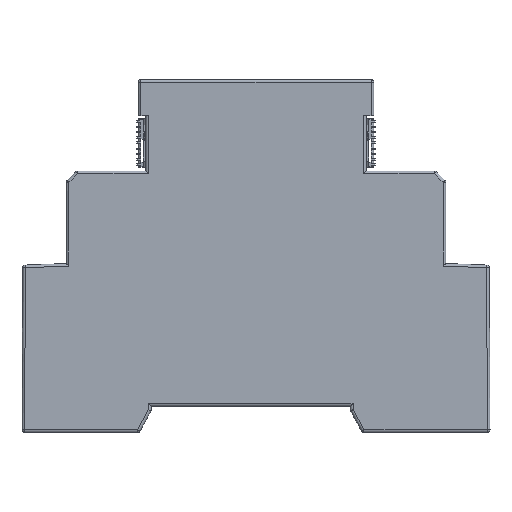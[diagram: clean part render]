
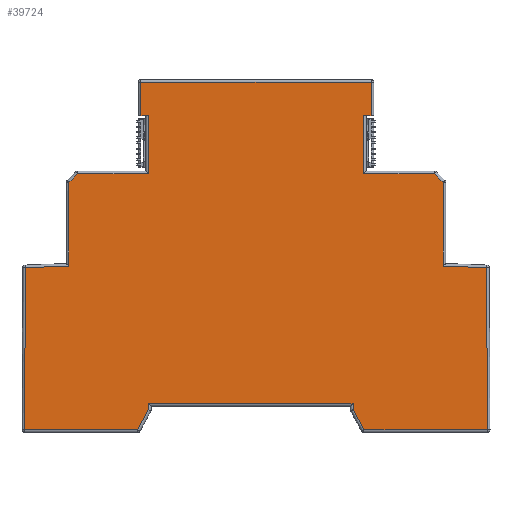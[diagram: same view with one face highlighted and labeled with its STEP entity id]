
A CAD part, top view. The second image highlights one B-rep face of the part: STEP entity #39724.
In plain terms, the highlighted planar face has unit normal (0, 0, 1).
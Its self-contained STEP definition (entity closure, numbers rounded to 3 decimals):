
#32370=DIRECTION('',(-0.707,0.707,0.));
#32371=VECTOR('',#32370,2.414);
#32372=CARTESIAN_POINT('',(35.8,11.543,8.8));
#32373=LINE('',#32372,#32371);
#32374=DIRECTION('',(-0.999,0.036,0.));
#32375=VECTOR('',#32374,8.307);
#32376=CARTESIAN_POINT('',(44.101,-4.732,8.8));
#32377=LINE('',#32376,#32375);
#32378=DIRECTION('',(-0.005,1.,0.));
#32379=VECTOR('',#32378,31.018);
#32380=CARTESIAN_POINT('',(44.248,-35.75,8.8));
#32381=LINE('',#32380,#32379);
#32382=DIRECTION('',(0.479,-0.878,0.));
#32383=VECTOR('',#32382,4.36);
#32384=CARTESIAN_POINT('',(18.55,-31.923,8.8));
#32385=LINE('',#32384,#32383);
#32386=DIRECTION('',(0.479,0.878,0.));
#32387=VECTOR('',#32386,4.36);
#32388=CARTESIAN_POINT('',(-22.638,-35.75,8.8));
#32389=LINE('',#32388,#32387);
#32390=DIRECTION('',(-0.005,-1.,0.));
#32391=VECTOR('',#32390,31.018);
#32392=CARTESIAN_POINT('',(-44.101,-4.732,8.8));
#32393=LINE('',#32392,#32391);
#32394=DIRECTION('',(-0.999,-0.036,0.));
#32395=VECTOR('',#32394,8.307);
#32396=CARTESIAN_POINT('',(-35.8,-4.432,8.8));
#32397=LINE('',#32396,#32395);
#32398=DIRECTION('',(-0.707,-0.707,0.));
#32399=VECTOR('',#32398,2.414);
#32400=CARTESIAN_POINT('',(-34.093,13.25,8.8));
#32401=LINE('',#32400,#32399);
#32415=DIRECTION('',(0.,-1.,0.));
#32416=VECTOR('',#32415,11.1);
#32417=CARTESIAN_POINT('',(20.6,24.35,8.8));
#32418=LINE('',#32417,#32416);
#32440=DIRECTION('',(-1.,0.,0.));
#32441=VECTOR('',#32440,1.4);
#32442=CARTESIAN_POINT('',(22.,24.35,8.8));
#32443=LINE('',#32442,#32441);
#32449=DIRECTION('',(0.,-1.,0.));
#32450=VECTOR('',#32449,6.4);
#32451=CARTESIAN_POINT('',(22.,30.75,8.8));
#32452=LINE('',#32451,#32450);
#32476=DIRECTION('',(1.,0.,0.));
#32477=VECTOR('',#32476,44.);
#32478=CARTESIAN_POINT('',(-22.,30.75,8.8));
#32479=LINE('',#32478,#32477);
#33604=DIRECTION('',(0.,1.,0.));
#33605=VECTOR('',#33604,1.173);
#33606=CARTESIAN_POINT('',(18.55,-31.923,8.8));
#33607=LINE('',#33606,#33605);
#33629=DIRECTION('',(-1.,0.,0.));
#33630=VECTOR('',#33629,39.1);
#33631=CARTESIAN_POINT('',(18.55,-30.75,8.8));
#33632=LINE('',#33631,#33630);
#33645=DIRECTION('',(0.,-1.,0.));
#33646=VECTOR('',#33645,1.173);
#33647=CARTESIAN_POINT('',(-20.55,-30.75,8.8));
#33648=LINE('',#33647,#33646);
#34398=DIRECTION('',(0.,1.,0.));
#34399=VECTOR('',#34398,11.1);
#34400=CARTESIAN_POINT('',(-20.6,13.25,8.8));
#34401=LINE('',#34400,#34399);
#34419=DIRECTION('',(1.,0.,0.));
#34420=VECTOR('',#34419,13.493);
#34421=CARTESIAN_POINT('',(-34.093,13.25,8.8));
#34422=LINE('',#34421,#34420);
#34546=DIRECTION('',(0.,1.,0.));
#34547=VECTOR('',#34546,15.975);
#34548=CARTESIAN_POINT('',(-35.8,-4.432,8.8));
#34549=LINE('',#34548,#34547);
#34622=DIRECTION('',(-1.,0.,0.));
#34623=VECTOR('',#34622,21.61);
#34624=CARTESIAN_POINT('',(-22.638,-35.75,8.8));
#34625=LINE('',#34624,#34623);
#34684=DIRECTION('',(-1.,0.,0.));
#34685=VECTOR('',#34684,1.4);
#34686=CARTESIAN_POINT('',(-20.6,24.35,8.8));
#34687=LINE('',#34686,#34685);
#34706=DIRECTION('',(0.,1.,0.));
#34707=VECTOR('',#34706,6.4);
#34708=CARTESIAN_POINT('',(-22.,24.35,8.8));
#34709=LINE('',#34708,#34707);
#34999=DIRECTION('',(-1.,0.,0.));
#35000=VECTOR('',#34999,23.61);
#35001=CARTESIAN_POINT('',(44.248,-35.75,8.8));
#35002=LINE('',#35001,#35000);
#35899=DIRECTION('',(0.,-1.,0.));
#35900=VECTOR('',#35899,15.975);
#35901=CARTESIAN_POINT('',(35.8,11.543,8.8));
#35902=LINE('',#35901,#35900);
#35941=DIRECTION('',(1.,0.,0.));
#35942=VECTOR('',#35941,13.493);
#35943=CARTESIAN_POINT('',(20.6,13.25,8.8));
#35944=LINE('',#35943,#35942);
#38082=CARTESIAN_POINT('',(20.6,24.35,8.8));
#38083=CARTESIAN_POINT('',(20.6,13.25,8.8));
#38084=VERTEX_POINT('',#38082);
#38085=VERTEX_POINT('',#38083);
#38086=CARTESIAN_POINT('',(22.,24.35,8.8));
#38087=VERTEX_POINT('',#38086);
#38088=CARTESIAN_POINT('',(22.,30.75,8.8));
#38089=VERTEX_POINT('',#38088);
#38090=CARTESIAN_POINT('',(-22.,30.75,8.8));
#38091=VERTEX_POINT('',#38090);
#38092=CARTESIAN_POINT('',(-22.,24.35,8.8));
#38093=VERTEX_POINT('',#38092);
#38094=CARTESIAN_POINT('',(-20.6,24.35,8.8));
#38095=VERTEX_POINT('',#38094);
#38096=CARTESIAN_POINT('',(-20.6,13.25,8.8));
#38097=VERTEX_POINT('',#38096);
#38098=CARTESIAN_POINT('',(-34.093,13.25,8.8));
#38099=VERTEX_POINT('',#38098);
#38100=CARTESIAN_POINT('',(-35.8,11.543,8.8));
#38101=VERTEX_POINT('',#38100);
#38102=CARTESIAN_POINT('',(-35.8,-4.432,8.8));
#38103=VERTEX_POINT('',#38102);
#38104=CARTESIAN_POINT('',(-44.101,-4.732,8.8));
#38105=VERTEX_POINT('',#38104);
#38106=CARTESIAN_POINT('',(-44.248,-35.75,8.8));
#38107=VERTEX_POINT('',#38106);
#38108=CARTESIAN_POINT('',(-22.638,-35.75,8.8));
#38109=VERTEX_POINT('',#38108);
#38110=CARTESIAN_POINT('',(-20.55,-31.923,8.8));
#38111=VERTEX_POINT('',#38110);
#38112=CARTESIAN_POINT('',(-20.55,-30.75,8.8));
#38113=VERTEX_POINT('',#38112);
#38114=CARTESIAN_POINT('',(18.55,-30.75,8.8));
#38115=VERTEX_POINT('',#38114);
#38116=CARTESIAN_POINT('',(18.55,-31.923,8.8));
#38117=VERTEX_POINT('',#38116);
#38118=CARTESIAN_POINT('',(20.638,-35.75,8.8));
#38119=VERTEX_POINT('',#38118);
#38120=CARTESIAN_POINT('',(44.248,-35.75,8.8));
#38121=VERTEX_POINT('',#38120);
#38122=CARTESIAN_POINT('',(44.101,-4.732,8.8));
#38123=VERTEX_POINT('',#38122);
#38124=CARTESIAN_POINT('',(35.8,-4.432,8.8));
#38125=VERTEX_POINT('',#38124);
#38126=CARTESIAN_POINT('',(35.8,11.543,8.8));
#38127=VERTEX_POINT('',#38126);
#38128=CARTESIAN_POINT('',(34.093,13.25,8.8));
#38129=VERTEX_POINT('',#38128);
#39669=CARTESIAN_POINT('',(0.,0.,8.8));
#39670=DIRECTION('',(0.,0.,1.));
#39671=DIRECTION('',(1.,0.,0.));
#39672=AXIS2_PLACEMENT_3D('',#39669,#39670,#39671);
#39673=PLANE('',#39672);
#39675=ORIENTED_EDGE('',*,*,#39674,.T.);
#39677=ORIENTED_EDGE('',*,*,#39676,.T.);
#39679=ORIENTED_EDGE('',*,*,#39678,.F.);
#39681=ORIENTED_EDGE('',*,*,#39680,.T.);
#39683=ORIENTED_EDGE('',*,*,#39682,.F.);
#39685=ORIENTED_EDGE('',*,*,#39684,.F.);
#39687=ORIENTED_EDGE('',*,*,#39686,.T.);
#39689=ORIENTED_EDGE('',*,*,#39688,.F.);
#39691=ORIENTED_EDGE('',*,*,#39690,.T.);
#39693=ORIENTED_EDGE('',*,*,#39692,.T.);
#39695=ORIENTED_EDGE('',*,*,#39694,.T.);
#39697=ORIENTED_EDGE('',*,*,#39696,.F.);
#39699=ORIENTED_EDGE('',*,*,#39698,.T.);
#39701=ORIENTED_EDGE('',*,*,#39700,.F.);
#39703=ORIENTED_EDGE('',*,*,#39702,.F.);
#39705=ORIENTED_EDGE('',*,*,#39704,.T.);
#39707=ORIENTED_EDGE('',*,*,#39706,.F.);
#39709=ORIENTED_EDGE('',*,*,#39708,.T.);
#39711=ORIENTED_EDGE('',*,*,#39710,.T.);
#39713=ORIENTED_EDGE('',*,*,#39712,.T.);
#39715=ORIENTED_EDGE('',*,*,#39714,.T.);
#39717=ORIENTED_EDGE('',*,*,#39716,.T.);
#39719=ORIENTED_EDGE('',*,*,#39718,.T.);
#39721=ORIENTED_EDGE('',*,*,#39720,.T.);
#39722=EDGE_LOOP('',(#39675,#39677,#39679,#39681,#39683,#39685,#39687,#39689,
#39691,#39693,#39695,#39697,#39699,#39701,#39703,#39705,#39707,#39709,#39711,
#39713,#39715,#39717,#39719,#39721));
#39723=FACE_OUTER_BOUND('',#39722,.F.);
#39724=ADVANCED_FACE('',(#39723),#39673,.T.);
#39674=EDGE_CURVE('',#38084,#38085,#32418,.T.);
#39676=EDGE_CURVE('',#38085,#38129,#35944,.T.);
#39678=EDGE_CURVE('',#38127,#38129,#32373,.T.);
#39680=EDGE_CURVE('',#38127,#38125,#35902,.T.);
#39682=EDGE_CURVE('',#38123,#38125,#32377,.T.);
#39684=EDGE_CURVE('',#38121,#38123,#32381,.T.);
#39686=EDGE_CURVE('',#38121,#38119,#35002,.T.);
#39688=EDGE_CURVE('',#38117,#38119,#32385,.T.);
#39690=EDGE_CURVE('',#38117,#38115,#33607,.T.);
#39692=EDGE_CURVE('',#38115,#38113,#33632,.T.);
#39694=EDGE_CURVE('',#38113,#38111,#33648,.T.);
#39696=EDGE_CURVE('',#38109,#38111,#32389,.T.);
#39698=EDGE_CURVE('',#38109,#38107,#34625,.T.);
#39700=EDGE_CURVE('',#38105,#38107,#32393,.T.);
#39702=EDGE_CURVE('',#38103,#38105,#32397,.T.);
#39704=EDGE_CURVE('',#38103,#38101,#34549,.T.);
#39706=EDGE_CURVE('',#38099,#38101,#32401,.T.);
#39708=EDGE_CURVE('',#38099,#38097,#34422,.T.);
#39710=EDGE_CURVE('',#38097,#38095,#34401,.T.);
#39712=EDGE_CURVE('',#38095,#38093,#34687,.T.);
#39714=EDGE_CURVE('',#38093,#38091,#34709,.T.);
#39716=EDGE_CURVE('',#38091,#38089,#32479,.T.);
#39718=EDGE_CURVE('',#38089,#38087,#32452,.T.);
#39720=EDGE_CURVE('',#38087,#38084,#32443,.T.);
